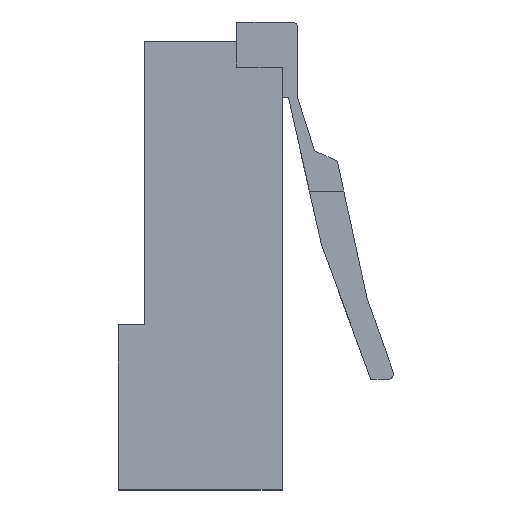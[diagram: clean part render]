
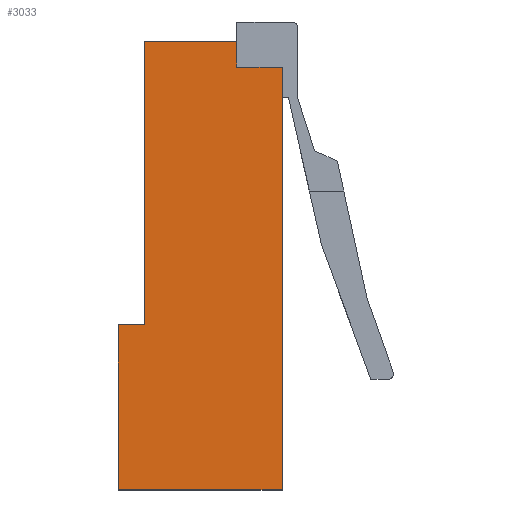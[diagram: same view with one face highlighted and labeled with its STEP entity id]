
A CAD part, top view. The second image highlights one B-rep face of the part: STEP entity #3033.
In plain terms, the highlighted planar face has unit normal (0, 0, 1).
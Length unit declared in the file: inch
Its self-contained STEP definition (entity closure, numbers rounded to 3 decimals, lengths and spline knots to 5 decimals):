
#13=DIRECTION('',(0.,-1.,0.));
#14=VECTOR('',#13,0.795);
#15=CARTESIAN_POINT('',(0.085,0.,0.));
#16=LINE('',#15,#14);
#167=DIRECTION('',(-1.,0.,0.));
#168=VECTOR('',#167,0.173);
#169=CARTESIAN_POINT('',(0.,0.048,0.));
#170=LINE('',#169,#168);
#259=DIRECTION('',(0.,-1.,0.));
#260=VECTOR('',#259,0.31);
#261=CARTESIAN_POINT('',(-0.223,-0.485,0.));
#262=LINE('',#261,#260);
#263=DIRECTION('',(-1.,0.,0.));
#264=VECTOR('',#263,0.05);
#265=CARTESIAN_POINT('',(-0.173,-0.485,0.));
#266=LINE('',#265,#264);
#267=DIRECTION('',(0.,1.,0.));
#268=VECTOR('',#267,0.048);
#269=CARTESIAN_POINT('',(0.,0.,0.));
#270=LINE('',#269,#268);
#271=DIRECTION('',(1.,0.,0.));
#272=VECTOR('',#271,0.085);
#273=CARTESIAN_POINT('',(0.,0.,0.));
#274=LINE('',#273,#272);
#283=DIRECTION('',(1.,0.,0.));
#284=VECTOR('',#283,0.308);
#285=CARTESIAN_POINT('',(-0.223,-0.795,0.));
#286=LINE('',#285,#284);
#332=DIRECTION('',(0.,1.,0.));
#333=VECTOR('',#332,0.533);
#334=CARTESIAN_POINT('',(-0.173,-0.485,0.));
#335=LINE('',#334,#333);
#2040=CARTESIAN_POINT('',(0.085,0.,0.));
#2041=CARTESIAN_POINT('',(0.085,-0.795,0.));
#2042=VERTEX_POINT('',#2040);
#2043=VERTEX_POINT('',#2041);
#2048=CARTESIAN_POINT('',(0.,0.048,0.));
#2049=CARTESIAN_POINT('',(-0.173,0.048,0.));
#2050=VERTEX_POINT('',#2048);
#2051=VERTEX_POINT('',#2049);
#2056=CARTESIAN_POINT('',(0.,0.,0.));
#2057=VERTEX_POINT('',#2056);
#2062=CARTESIAN_POINT('',(-0.223,-0.485,0.));
#2063=CARTESIAN_POINT('',(-0.223,-0.795,0.));
#2064=VERTEX_POINT('',#2062);
#2065=VERTEX_POINT('',#2063);
#2070=CARTESIAN_POINT('',(-0.173,-0.485,0.));
#2072=VERTEX_POINT('',#2070);
#3014=CARTESIAN_POINT('',(0.,0.,0.));
#3015=DIRECTION('',(0.,0.,1.));
#3016=DIRECTION('',(0.,-1.,0.));
#3017=AXIS2_PLACEMENT_3D('',#3014,#3015,#3016);
#3018=PLANE('',#3017);
#3020=ORIENTED_EDGE('',*,*,#3019,.F.);
#3022=ORIENTED_EDGE('',*,*,#3021,.F.);
#3024=ORIENTED_EDGE('',*,*,#3023,.F.);
#3026=ORIENTED_EDGE('',*,*,#3025,.T.);
#3027=ORIENTED_EDGE('',*,*,#2912,.F.);
#3028=ORIENTED_EDGE('',*,*,#2995,.F.);
#3029=ORIENTED_EDGE('',*,*,#3008,.T.);
#3030=ORIENTED_EDGE('',*,*,#2703,.T.);
#3031=EDGE_LOOP('',(#3020,#3022,#3024,#3026,#3027,#3028,#3029,#3030));
#3032=FACE_OUTER_BOUND('',#3031,.F.);
#3033=ADVANCED_FACE('',(#3032),#3018,.T.);
#2703=EDGE_CURVE('',#2042,#2043,#16,.T.);
#2912=EDGE_CURVE('',#2050,#2051,#170,.T.);
#2995=EDGE_CURVE('',#2057,#2050,#270,.T.);
#3008=EDGE_CURVE('',#2057,#2042,#274,.T.);
#3019=EDGE_CURVE('',#2065,#2043,#286,.T.);
#3021=EDGE_CURVE('',#2064,#2065,#262,.T.);
#3023=EDGE_CURVE('',#2072,#2064,#266,.T.);
#3025=EDGE_CURVE('',#2072,#2051,#335,.T.);
